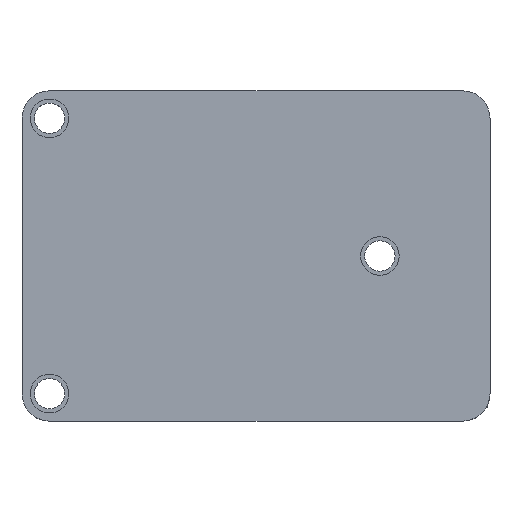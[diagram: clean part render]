
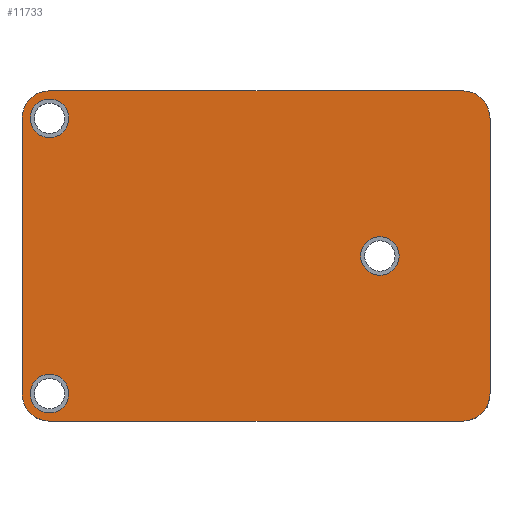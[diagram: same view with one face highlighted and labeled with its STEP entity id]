
A CAD part, top view. The second image highlights one B-rep face of the part: STEP entity #11733.
In plain terms, the highlighted planar face has unit normal (0, 0, 1).
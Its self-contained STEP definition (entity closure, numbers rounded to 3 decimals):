
#56 = DIRECTION ( 'NONE',  ( 0., 0., -1. ) ) ;
#235 = CARTESIAN_POINT ( 'NONE',  ( -61.613, 24.297, 1.305 ) ) ;
#319 = DIRECTION ( 'NONE',  ( 1., 0., 0. ) ) ;
#337 = CARTESIAN_POINT ( 'NONE',  ( -63.013, 22.297, 1.305 ) ) ;
#487 = CIRCLE ( 'NONE', #10740, 1.4 ) ;
#551 = DIRECTION ( 'NONE',  ( 1., 0., 0. ) ) ;
#624 = ORIENTED_EDGE ( 'NONE', *, *, #6620, .F. ) ;
#644 = DIRECTION ( 'NONE',  ( 1., 0., 0. ) ) ;
#816 = CARTESIAN_POINT ( 'NONE',  ( -46.613, 24.297, 1.305 ) ) ;
#989 = FACE_BOUND ( 'NONE', #11850, .T. ) ;
#1173 = CARTESIAN_POINT ( 'NONE',  ( -61.613, 2.297, 1.305 ) ) ;
#1291 = CARTESIAN_POINT ( 'NONE',  ( -46.613, 12.297, 1.305 ) ) ;
#1314 = VERTEX_POINT ( 'NONE', #4617 ) ;
#1315 = FACE_BOUND ( 'NONE', #7014, .T. ) ;
#1420 = CARTESIAN_POINT ( 'NONE',  ( -31.613, 22.297, 1.305 ) ) ;
#1495 = DIRECTION ( 'NONE',  ( 0., 0., 1. ) ) ;
#1595 = CARTESIAN_POINT ( 'NONE',  ( -39.013, 12.297, 1.305 ) ) ;
#1818 = DIRECTION ( 'NONE',  ( 1., 0., 0. ) ) ;
#1868 = CIRCLE ( 'NONE', #5208, 2. ) ;
#2019 = EDGE_CURVE ( 'NONE', #4685, #11856, #9108, .T. ) ;
#2059 = AXIS2_PLACEMENT_3D ( 'NONE', #1420, #9555, #5561 ) ;
#2228 = DIRECTION ( 'NONE',  ( 1., 0., 0. ) ) ;
#2304 = CARTESIAN_POINT ( 'NONE',  ( -63.013, 2.297, 1.305 ) ) ;
#2332 = LINE ( 'NONE', #816, #3106 ) ;
#2348 = EDGE_CURVE ( 'NONE', #12176, #10840, #3912, .T. ) ;
#2641 = EDGE_CURVE ( 'NONE', #9502, #3865, #1868, .T. ) ;
#2726 = VERTEX_POINT ( 'NONE', #12046 ) ;
#2927 = ORIENTED_EDGE ( 'NONE', *, *, #7579, .F. ) ;
#3106 = VECTOR ( 'NONE', #4968, 1000. ) ;
#3181 = CARTESIAN_POINT ( 'NONE',  ( -37.613, 12.297, 1.305 ) ) ;
#3212 = DIRECTION ( 'NONE',  ( 0., -1., 0. ) ) ;
#3402 = DIRECTION ( 'NONE',  ( 0., 0., 1. ) ) ;
#3592 = DIRECTION ( 'NONE',  ( 0., 0., 1. ) ) ;
#3610 = AXIS2_PLACEMENT_3D ( 'NONE', #11753, #7770, #8833 ) ;
#3704 = ORIENTED_EDGE ( 'NONE', *, *, #2019, .F. ) ;
#3739 = EDGE_CURVE ( 'NONE', #12009, #9502, #4828, .T. ) ;
#3865 = VERTEX_POINT ( 'NONE', #3948 ) ;
#3912 = CIRCLE ( 'NONE', #12633, 2. ) ;
#3948 = CARTESIAN_POINT ( 'NONE',  ( -31.613, 0.297, 1.305 ) ) ;
#3996 = VERTEX_POINT ( 'NONE', #2304 ) ;
#4074 = AXIS2_PLACEMENT_3D ( 'NONE', #3181, #10213, #1818 ) ;
#4112 = DIRECTION ( 'NONE',  ( 1., 0., 0. ) ) ;
#4172 = AXIS2_PLACEMENT_3D ( 'NONE', #6605, #3592, #551 ) ;
#4247 = DIRECTION ( 'NONE',  ( 1., 0., 0. ) ) ;
#4328 = DIRECTION ( 'NONE',  ( 0., 0., 1. ) ) ;
#4440 = CARTESIAN_POINT ( 'NONE',  ( -31.613, 24.297, 1.305 ) ) ;
#4617 = CARTESIAN_POINT ( 'NONE',  ( -60.213, 2.297, 1.305 ) ) ;
#4685 = VERTEX_POINT ( 'NONE', #7160 ) ;
#4828 = LINE ( 'NONE', #8742, #12700 ) ;
#4968 = DIRECTION ( 'NONE',  ( 1., 0., 0. ) ) ;
#5041 = CIRCLE ( 'NONE', #9500, 1.4 ) ;
#5128 = DIRECTION ( 'NONE',  ( 1., 0., 0. ) ) ;
#5141 = EDGE_CURVE ( 'NONE', #10840, #3865, #11406, .T. ) ;
#5144 = DIRECTION ( 'NONE',  ( 0., 0., 1. ) ) ;
#5208 = AXIS2_PLACEMENT_3D ( 'NONE', #6002, #56, #5128 ) ;
#5216 = CARTESIAN_POINT ( 'NONE',  ( -61.613, 22.297, 1.305 ) ) ;
#5221 = EDGE_CURVE ( 'NONE', #7654, #10235, #10122, .T. ) ;
#5280 = ORIENTED_EDGE ( 'NONE', *, *, #2641, .F. ) ;
#5561 = DIRECTION ( 'NONE',  ( 1., 0., 0. ) ) ;
#5566 = CIRCLE ( 'NONE', #4074, 1.4 ) ;
#5576 = ORIENTED_EDGE ( 'NONE', *, *, #3739, .F. ) ;
#5679 = CARTESIAN_POINT ( 'NONE',  ( -61.613, 22.297, 1.305 ) ) ;
#5863 = EDGE_CURVE ( 'NONE', #12009, #10689, #10573, .T. ) ;
#5909 = ORIENTED_EDGE ( 'NONE', *, *, #5221, .F. ) ;
#5922 = EDGE_LOOP ( 'NONE', ( #5909, #5961, #6582, #8899, #5280, #5576, #9894, #7367 ) ) ;
#5961 = ORIENTED_EDGE ( 'NONE', *, *, #6252, .T. ) ;
#6002 = CARTESIAN_POINT ( 'NONE',  ( -31.613, 2.297, 1.305 ) ) ;
#6155 = DIRECTION ( 'NONE',  ( 0., 0., 1. ) ) ;
#6252 = EDGE_CURVE ( 'NONE', #7654, #12176, #10412, .T. ) ;
#6446 = PLANE ( 'NONE',  #10891 ) ;
#6582 = ORIENTED_EDGE ( 'NONE', *, *, #2348, .T. ) ;
#6605 = CARTESIAN_POINT ( 'NONE',  ( -61.613, 2.297, 1.305 ) ) ;
#6620 = EDGE_CURVE ( 'NONE', #2726, #9203, #10250, .T. ) ;
#6995 = EDGE_CURVE ( 'NONE', #1314, #3996, #487, .T. ) ;
#7014 = EDGE_LOOP ( 'NONE', ( #2927, #624 ) ) ;
#7143 = FACE_OUTER_BOUND ( 'NONE', #5922, .T. ) ;
#7160 = CARTESIAN_POINT ( 'NONE',  ( -36.213, 12.297, 1.305 ) ) ;
#7367 = ORIENTED_EDGE ( 'NONE', *, *, #9417, .F. ) ;
#7491 = ORIENTED_EDGE ( 'NONE', *, *, #11610, .F. ) ;
#7579 = EDGE_CURVE ( 'NONE', #9203, #2726, #5041, .T. ) ;
#7654 = VERTEX_POINT ( 'NONE', #10384 ) ;
#7770 = DIRECTION ( 'NONE',  ( 0., 0., 1. ) ) ;
#7785 = CARTESIAN_POINT ( 'NONE',  ( -61.613, 0.297, 1.305 ) ) ;
#7883 = AXIS2_PLACEMENT_3D ( 'NONE', #10397, #11293, #319 ) ;
#7926 = FACE_BOUND ( 'NONE', #9047, .T. ) ;
#7977 = CARTESIAN_POINT ( 'NONE',  ( -63.613, 2.297, 1.305 ) ) ;
#8100 = EDGE_CURVE ( 'NONE', #3996, #1314, #11483, .T. ) ;
#8348 = DIRECTION ( 'NONE',  ( 1., 0., 0. ) ) ;
#8742 = CARTESIAN_POINT ( 'NONE',  ( -29.613, 12.297, 1.305 ) ) ;
#8789 = DIRECTION ( 'NONE',  ( 0., -1., 0. ) ) ;
#8833 = DIRECTION ( 'NONE',  ( 1., 0., 0. ) ) ;
#8899 = ORIENTED_EDGE ( 'NONE', *, *, #5141, .T. ) ;
#9047 = EDGE_LOOP ( 'NONE', ( #7491, #3704 ) ) ;
#9108 = CIRCLE ( 'NONE', #3610, 1.4 ) ;
#9140 = CARTESIAN_POINT ( 'NONE',  ( -46.613, 0.297, 1.305 ) ) ;
#9156 = AXIS2_PLACEMENT_3D ( 'NONE', #5679, #1495, #644 ) ;
#9203 = VERTEX_POINT ( 'NONE', #337 ) ;
#9208 = CARTESIAN_POINT ( 'NONE',  ( -63.613, 12.297, 1.305 ) ) ;
#9417 = EDGE_CURVE ( 'NONE', #10235, #10689, #2332, .T. ) ;
#9500 = AXIS2_PLACEMENT_3D ( 'NONE', #5216, #4328, #8348 ) ;
#9502 = VERTEX_POINT ( 'NONE', #11908 ) ;
#9555 = DIRECTION ( 'NONE',  ( 0., 0., 1. ) ) ;
#9722 = CARTESIAN_POINT ( 'NONE',  ( -29.613, 22.297, 1.305 ) ) ;
#9820 = ORIENTED_EDGE ( 'NONE', *, *, #8100, .F. ) ;
#9894 = ORIENTED_EDGE ( 'NONE', *, *, #5863, .T. ) ;
#10122 = CIRCLE ( 'NONE', #7883, 2. ) ;
#10213 = DIRECTION ( 'NONE',  ( 0., 0., 1. ) ) ;
#10235 = VERTEX_POINT ( 'NONE', #235 ) ;
#10250 = CIRCLE ( 'NONE', #9156, 1.4 ) ;
#10384 = CARTESIAN_POINT ( 'NONE',  ( -63.613, 22.297, 1.305 ) ) ;
#10397 = CARTESIAN_POINT ( 'NONE',  ( -61.613, 22.297, 1.305 ) ) ;
#10412 = LINE ( 'NONE', #9208, #12147 ) ;
#10475 = ORIENTED_EDGE ( 'NONE', *, *, #6995, .F. ) ;
#10573 = CIRCLE ( 'NONE', #2059, 2. ) ;
#10689 = VERTEX_POINT ( 'NONE', #4440 ) ;
#10740 = AXIS2_PLACEMENT_3D ( 'NONE', #1173, #5144, #2228 ) ;
#10840 = VERTEX_POINT ( 'NONE', #7785 ) ;
#10891 = AXIS2_PLACEMENT_3D ( 'NONE', #1291, #3402, #11366 ) ;
#11293 = DIRECTION ( 'NONE',  ( 0., 0., -1. ) ) ;
#11366 = DIRECTION ( 'NONE',  ( 1., 0., 0. ) ) ;
#11406 = LINE ( 'NONE', #9140, #12359 ) ;
#11483 = CIRCLE ( 'NONE', #4172, 1.4 ) ;
#11610 = EDGE_CURVE ( 'NONE', #11856, #4685, #5566, .T. ) ;
#11733 = ADVANCED_FACE ( 'NONE', ( #7926, #7143, #1315, #989 ), #6446, .T. ) ;
#11753 = CARTESIAN_POINT ( 'NONE',  ( -37.613, 12.297, 1.305 ) ) ;
#11850 = EDGE_LOOP ( 'NONE', ( #9820, #10475 ) ) ;
#11856 = VERTEX_POINT ( 'NONE', #1595 ) ;
#11908 = CARTESIAN_POINT ( 'NONE',  ( -29.613, 2.297, 1.305 ) ) ;
#12009 = VERTEX_POINT ( 'NONE', #9722 ) ;
#12046 = CARTESIAN_POINT ( 'NONE',  ( -60.213, 22.297, 1.305 ) ) ;
#12147 = VECTOR ( 'NONE', #3212, 1000. ) ;
#12162 = CARTESIAN_POINT ( 'NONE',  ( -61.613, 2.297, 1.305 ) ) ;
#12176 = VERTEX_POINT ( 'NONE', #7977 ) ;
#12359 = VECTOR ( 'NONE', #4112, 1000. ) ;
#12633 = AXIS2_PLACEMENT_3D ( 'NONE', #12162, #6155, #4247 ) ;
#12700 = VECTOR ( 'NONE', #8789, 1000. ) ;
